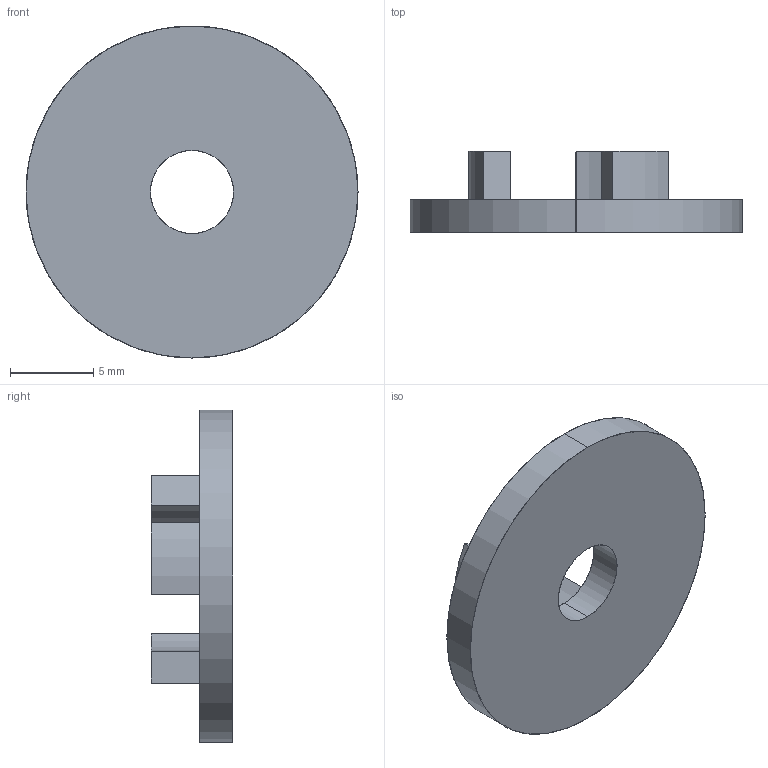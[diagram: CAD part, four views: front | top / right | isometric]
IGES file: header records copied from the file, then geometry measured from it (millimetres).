
Start section: SolidWorks IGES file using analytic representation for surfaces
Global section: file name: E:\Studium\I4.0\fts\Kleine Bauteile\rad-halb-2.IGS; native system: SolidWorks 2013; preprocessor: SolidWorks 2013; author: Ludwig Jiawei Luo; date: 180202.213842; units: millimetre
Bounding box: 20 x 4.9 x 20 mm (x, y, z)
Surface area: 846 mm2 (no closed solid volume)
Topology: 0 solids, 0 shells, 21 faces, 252 edges, 252 vertices
Faces by surface type: bspline 11, revolution 10
